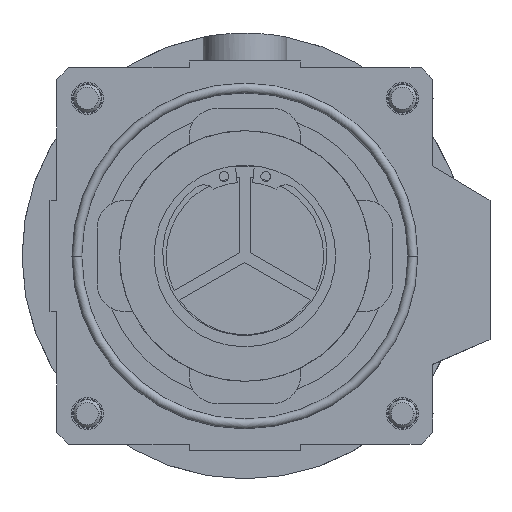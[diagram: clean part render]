
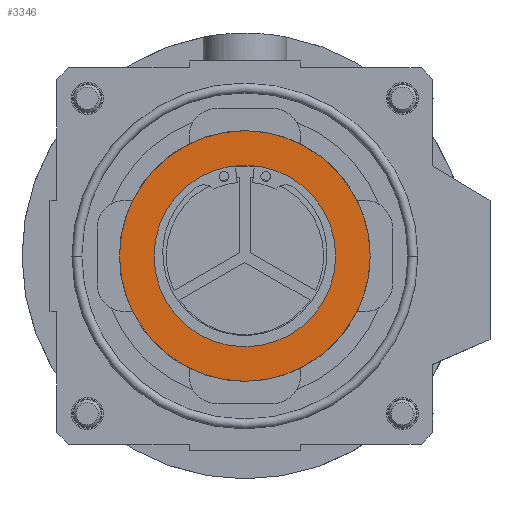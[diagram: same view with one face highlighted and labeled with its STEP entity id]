
A CAD part, front view. The second image highlights one B-rep face of the part: STEP entity #3346.
In plain terms, the highlighted planar face has unit normal (0, -1, 0).
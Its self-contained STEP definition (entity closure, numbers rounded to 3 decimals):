
#1317=CARTESIAN_POINT('',(0.,25.,0.));
#1318=DIRECTION('',(0.,1.,0.));
#1319=DIRECTION('',(-1.,0.,0.));
#1320=AXIS2_PLACEMENT_3D('',#1317,#1318,#1319);
#1322=CARTESIAN_POINT('',(0.,25.,0.));
#1323=DIRECTION('',(0.,-1.,0.));
#1324=DIRECTION('',(-1.,0.,0.));
#1325=AXIS2_PLACEMENT_3D('',#1322,#1323,#1324);
#1327=CARTESIAN_POINT('',(0.,25.,0.));
#1328=DIRECTION('',(0.,1.,0.));
#1329=DIRECTION('',(-1.,0.,0.));
#1330=AXIS2_PLACEMENT_3D('',#1327,#1328,#1329);
#1426=CARTESIAN_POINT('',(0.,25.,0.));
#1427=DIRECTION('',(0.,-1.,0.));
#1428=DIRECTION('',(-1.,0.,0.));
#1429=AXIS2_PLACEMENT_3D('',#1426,#1427,#1428);
#1776=CARTESIAN_POINT('',(-45.,25.,0.));
#1777=CARTESIAN_POINT('',(45.,25.,0.));
#1778=VERTEX_POINT('',#1776);
#1779=VERTEX_POINT('',#1777);
#1941=CARTESIAN_POINT('',(-32.6,25.,0.));
#1943=VERTEX_POINT('',#1941);
#1957=CARTESIAN_POINT('',(32.6,25.,0.));
#1959=VERTEX_POINT('',#1957);
#3329=CARTESIAN_POINT('',(0.,25.,0.));
#3330=DIRECTION('',(0.,1.,0.));
#3331=DIRECTION('',(1.,0.,0.));
#3332=AXIS2_PLACEMENT_3D('',#3329,#3330,#3331);
#3333=PLANE('',#3332);
#3335=ORIENTED_EDGE('',*,*,#3334,.F.);
#3337=ORIENTED_EDGE('',*,*,#3336,.T.);
#3338=EDGE_LOOP('',(#3335,#3337));
#3339=FACE_OUTER_BOUND('',#3338,.F.);
#3341=ORIENTED_EDGE('',*,*,#3340,.F.);
#3343=ORIENTED_EDGE('',*,*,#3342,.T.);
#3344=EDGE_LOOP('',(#3341,#3343));
#3345=FACE_BOUND('',#3344,.F.);
#3346=ADVANCED_FACE('',(#3339,#3345),#3333,.F.);
#1321=CIRCLE('',#1320,32.6);
#1326=CIRCLE('',#1325,32.6);
#1331=CIRCLE('',#1330,45.);
#1430=CIRCLE('',#1429,45.);
#3334=EDGE_CURVE('',#1778,#1779,#1430,.T.);
#3336=EDGE_CURVE('',#1778,#1779,#1331,.T.);
#3340=EDGE_CURVE('',#1943,#1959,#1321,.T.);
#3342=EDGE_CURVE('',#1943,#1959,#1326,.T.);
